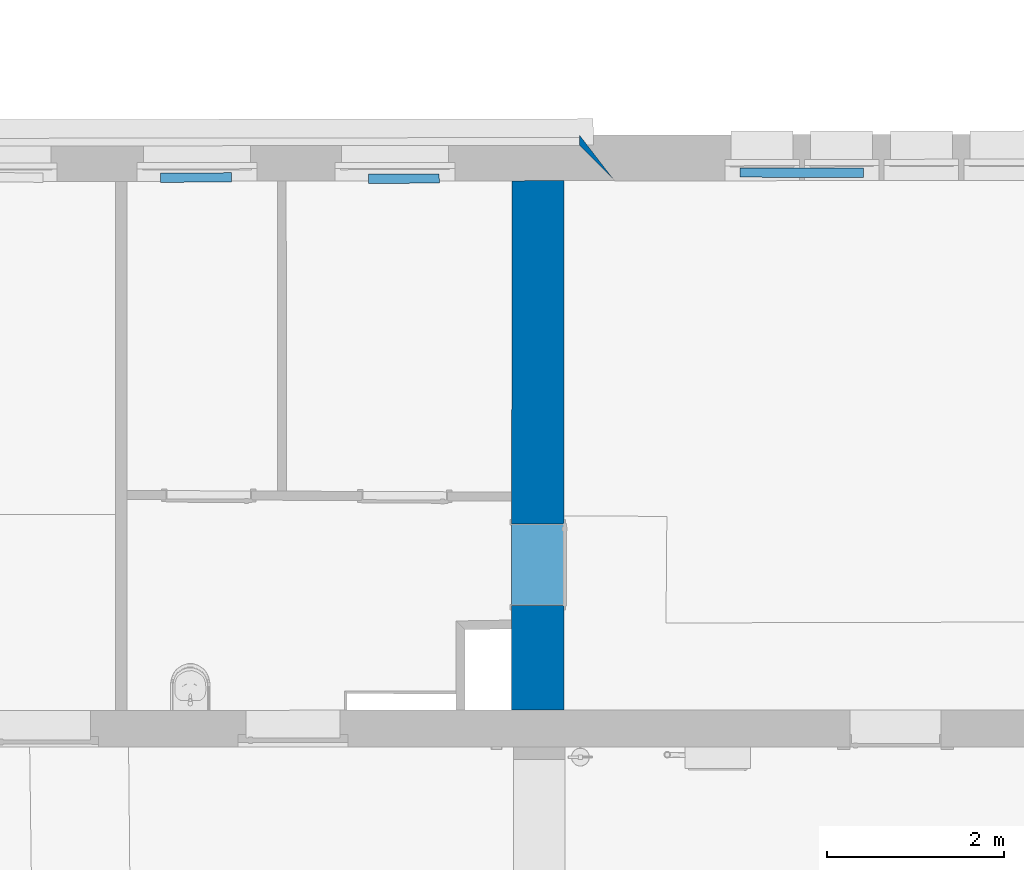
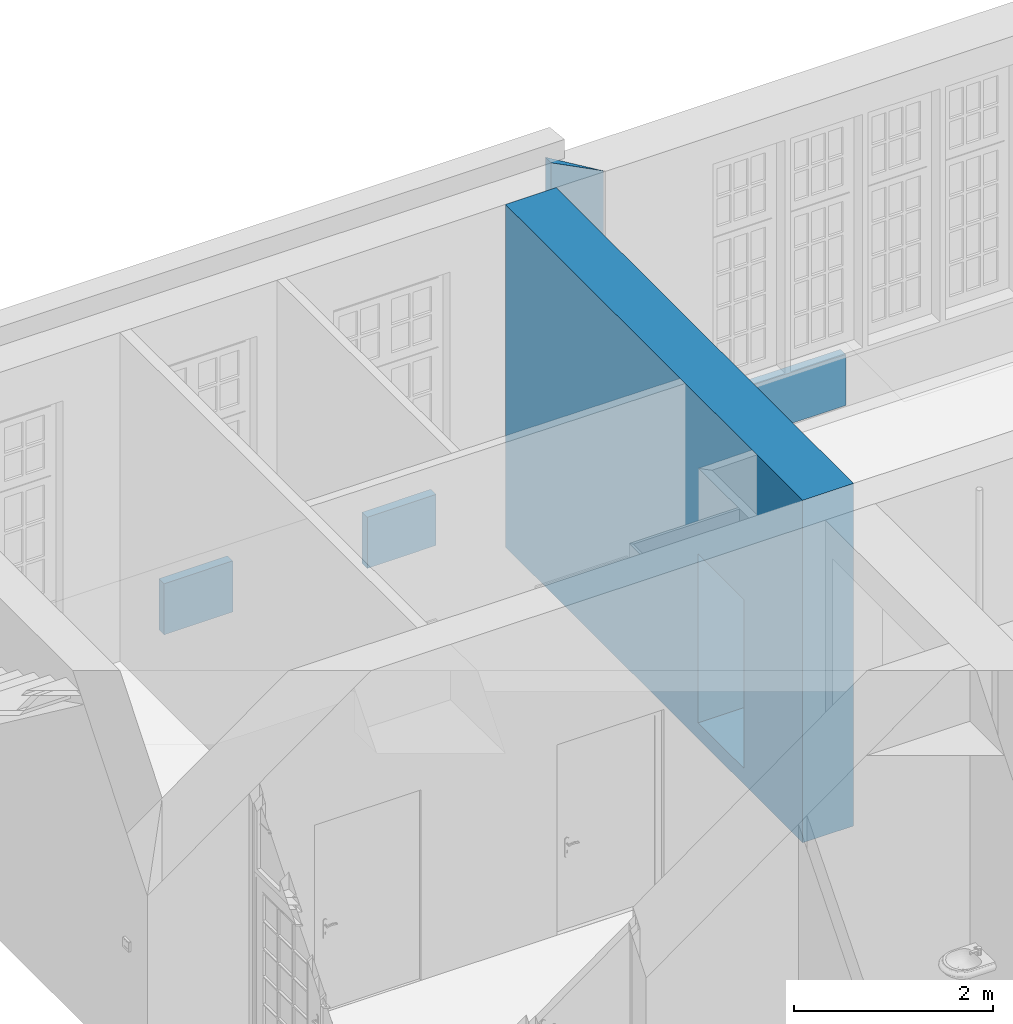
# One storey, part 33 of 90: 5 walls, 1 opening.
"""IFC2X3 building model written with IfcOpenShell, lengths in metres."""

import ifcopenshell
import ifcopenshell.guid

model = None  # the IFC model being written
_history = None  # IfcOwnerHistory: only IFC2X3 demands one
_inside = {}  # id of a spatial element -> (the spatial element, [elements in it])
_under = {}  # id of a project, library or spatial element -> (it, [spatial elements below it])
_declared = {}  # id of a project -> (the project, [libraries it declares])
_typed = {}  # id of a type object -> (the type object, [elements of that type])
_made_of = {}  # id of a material, layer set ... -> (it, [elements and type objects made of it])


def new_model(schema):
    """Start an empty IFC model of exactly this schema.

    Asked for "IFC4X3", IfcOpenShell would pick the latest addendum, in which some entities
    have other attributes; the version numbers below select the first issue.
    IFC2X3 requires an IfcOwnerHistory on every rooted entity: one is made here for all.
    """
    global model, _history
    if schema == "IFC4X3":
        model = ifcopenshell.file(schema_version=(4, 3, 0, 0))
    else:
        model = ifcopenshell.file(schema=schema)
    _inside.clear()
    _under.clear()
    _declared.clear()
    _typed.clear()
    _made_of.clear()
    _history = None
    if model.schema == "IFC2X3":
        org = make("IfcOrganization", Name="unknown")
        user = make(
            "IfcPersonAndOrganization",
            ThePerson=make("IfcPerson", FamilyName="unknown"),
            TheOrganization=org,
        )
        app = make(
            "IfcApplication",
            ApplicationDeveloper=org,
            Version="unknown",
            ApplicationFullName="unknown",
            ApplicationIdentifier="unknown",
        )
        _history = make(
            "IfcOwnerHistory",
            OwningUser=user,
            OwningApplication=app,
            ChangeAction="ADDED",
            CreationDate=0,
        )
    return model


def make(cls, **values):
    """One entity of the class cls with the attributes given. An attribute that is None is left unset."""
    return model.create_entity(
        cls, **{name: value for name, value in values.items() if value is not None}
    )


def entity(cls, *values):
    """Any entity or typed value of the class cls, its attributes in the order of the schema. None: left unset."""
    e = model.create_entity(cls)
    for i, value in enumerate(values):
        if value is not None:
            e[i] = value
    return e


def rooted(cls, **values):
    """An entity with a GlobalId (a new one), such as an element, a storey or a relation."""
    return make(cls, GlobalId=ifcopenshell.guid.new(), OwnerHistory=_history, **values)


def si_unit(unit_type, name, prefix=None):
    """IfcSIUnit, for example si_unit("LENGTHUNIT", "METRE", prefix="MILLI")."""
    return make("IfcSIUnit", UnitType=unit_type, Prefix=prefix, Name=name)


def converted_unit(unit_type, name, factor, base, dimensions=None, offset=None):
    """IfcConversionBasedUnit, such as the inch: factor (a typed value) times the base unit."""
    return make(
        "IfcConversionBasedUnit"
        if offset is None
        else "IfcConversionBasedUnitWithOffset",
        ConversionOffset=offset,
        Dimensions=None
        if dimensions is None
        else entity("IfcDimensionalExponents", *dimensions),
        UnitType=unit_type,
        Name=name,
        ConversionFactor=make(
            "IfcMeasureWithUnit", ValueComponent=factor, UnitComponent=base
        ),
    )


def derived_unit(unit_type, elements):
    """IfcDerivedUnit: a product of units, each with its exponent."""
    return make(
        "IfcDerivedUnit",
        Elements=[
            make("IfcDerivedUnitElement", Unit=unit, Exponent=power)
            for unit, power in elements
        ],
        UnitType=unit_type,
    )


def money_unit(currency):
    """IfcMonetaryUnit."""
    return make("IfcMonetaryUnit", Currency=currency)


def assignment(units):
    """IfcUnitAssignment: the units of a project."""
    return None if units is None else make("IfcUnitAssignment", Units=units)


def point(xyz):
    """IfcCartesianPoint."""
    return None if xyz is None else make("IfcCartesianPoint", Coordinates=xyz)


def direction(xyz):
    """IfcDirection."""
    return None if xyz is None else make("IfcDirection", DirectionRatios=xyz)


def frame(location, z_axis=None, x_axis=None):
    """IfcAxis2Placement3D, a coordinate frame: its origin and axes. An axis left out is left unset."""
    return make(
        "IfcAxis2Placement3D",
        Location=point(location),
        Axis=direction(z_axis),
        RefDirection=direction(x_axis),
    )


def frame_2d(location, x_axis=None):
    """IfcAxis2Placement2D, a coordinate frame in the plane: its origin and x axis."""
    return make(
        "IfcAxis2Placement2D", Location=point(location), RefDirection=direction(x_axis)
    )


def origin_with_axes():
    """The frame at (0, 0, 0) with the z axis (0, 0, 1) and the x axis (1, 0, 0) written out."""
    return frame((0.0, 0.0, 0.0), z_axis=(0.0, 0.0, 1.0), x_axis=(1.0, 0.0, 0.0))


def origin_2d_with_axis():
    """The frame at (0, 0) in the plane with the x axis (1, 0) written out."""
    return frame_2d((0.0, 0.0), x_axis=(1.0, 0.0))


def place(relative_to, where):
    """IfcLocalPlacement: puts the frame where relative to a parent placement (None: the world)."""
    return make(
        "IfcLocalPlacement", PlacementRelTo=relative_to, RelativePlacement=where
    )


def context(
    kind, dimensions, precision=None, world=None, true_north=None, identifier=None
):
    """IfcGeometricRepresentationContext, for example the 3D "Model" context."""
    return make(
        "IfcGeometricRepresentationContext",
        ContextIdentifier=identifier,
        ContextType=kind,
        CoordinateSpaceDimension=dimensions,
        Precision=precision,
        WorldCoordinateSystem=world,
        TrueNorth=true_north,
    )


def subcontext(parent, identifier, kind, view, scale=None):
    """IfcGeometricRepresentationSubContext, for example "Body" below "Model"."""
    return make(
        "IfcGeometricRepresentationSubContext",
        ContextIdentifier=identifier,
        ContextType=kind,
        ParentContext=parent,
        TargetScale=scale,
        TargetView=view,
    )


def project(units=None, contexts=None):
    """IfcProject with its units and contexts."""
    return rooted(
        "IfcProject",
        Name="project",
        RepresentationContexts=contexts,
        UnitsInContext=assignment(units),
    )


def spatial(cls, under=None, at=None, **own):
    """A site, building, storey or space (cls), placed at a placement, below another one or the project."""
    s = rooted(cls, ObjectPlacement=at, **own)
    if under is not None:
        _under.setdefault(under.id(), (under, []))[1].append(s)
    return s


def polyline(points):
    """IfcPolyline through the points."""
    return make("IfcPolyline", Points=[point(p) for p in points])


def profile(cls, at=None, kind="AREA", **sizes):
    """A parametric profile (cls). Its sizes go by their IFC names, for example OverallWidth=200.0."""
    return make(cls, ProfileType=kind, Position=at, **sizes)


def rectangle(**sizes):
    """IfcRectangleProfileDef."""
    return profile("IfcRectangleProfileDef", **sizes)


def outline(outer, holes=None, kind="AREA"):
    """IfcArbitraryClosedProfileDef: a profile drawn as a closed curve; with holes, ...WithVoids."""
    if holes is None:
        return make("IfcArbitraryClosedProfileDef", ProfileType=kind, OuterCurve=outer)
    return make(
        "IfcArbitraryProfileDefWithVoids",
        ProfileType=kind,
        OuterCurve=outer,
        InnerCurves=holes,
    )


def extrude(swept, where, along, depth):
    """IfcExtrudedAreaSolid: the profile swept, set in the frame where, extruded along a direction by depth."""
    return make(
        "IfcExtrudedAreaSolid",
        SweptArea=swept,
        Position=where,
        ExtrudedDirection=direction(along),
        Depth=depth,
    )


def shape(context_of_items, identifier, shape_type, items):
    """IfcShapeRepresentation: the items that make up one representation, for example the "Body"."""
    return make(
        "IfcShapeRepresentation",
        ContextOfItems=context_of_items,
        RepresentationIdentifier=identifier,
        RepresentationType=shape_type,
        Items=items,
    )


def material(Name=None, Category=None):
    """IfcMaterial."""
    return make("IfcMaterial", Name=Name, Category=Category)


def layer(
    of_material, thickness, ventilated=None, Name=None, Category=None, Priority=None
):
    """IfcMaterialLayer: one layer of a wall or slab, of a material (None: an air gap)."""
    return make(
        "IfcMaterialLayer",
        Material=of_material,
        LayerThickness=thickness,
        IsVentilated=ventilated,
        Name=Name,
        Category=Category,
        Priority=Priority,
    )


def layer_set(layers, Name=None):
    """IfcMaterialLayerSet."""
    return make("IfcMaterialLayerSet", MaterialLayers=layers, LayerSetName=Name)


def layer_usage(for_layer_set, set_direction, sense, offset, extent=None):
    """IfcMaterialLayerSetUsage: how a layer set lies in its element."""
    return make(
        "IfcMaterialLayerSetUsage",
        ForLayerSet=for_layer_set,
        LayerSetDirection=set_direction,
        DirectionSense=sense,
        OffsetFromReferenceLine=offset,
        ReferenceExtent=extent,
    )


def made_of(thing, what):
    """Note that an element or type object is made of a material, layer set ...; save() writes the relation."""
    if what is not None:
        _made_of.setdefault(what.id(), (what, []))[1].append(thing)
    return thing


def type_object(cls, material=None, **own):
    """A type object (cls), such as IfcWallType, which elements share."""
    return made_of(rooted(cls, **own), material)


def element(
    cls,
    number,
    at=None,
    inside=None,
    cuts=None,
    type_object=None,
    material=None,
    context=None,
    identifier="Body",
    shape_type=None,
    held_by="IfcProductDefinitionShape",
    body=None,
    shapes=None,
    **own,
):
    """One element of the class cls, such as IfcWall. Its Tag is "e" and its number.

    at: its placement. inside: the storey or other place that contains it. cuts: it is an
    opening in that element (IfcRelVoidsElement). A single representation is given by context,
    identifier, shape_type and body (its items); several are given by shapes. held_by: the class
    of the entity that holds the representations. save() writes the other relations.
    """
    e = rooted(cls, Tag="e%d" % number, ObjectPlacement=at, **own)
    if body is not None:
        shapes = [shape(context, identifier, shape_type, body)]
    if shapes is not None:
        e.Representation = make(held_by, Representations=shapes)
    if inside is not None:
        _inside.setdefault(inside.id(), (inside, []))[1].append(e)
    if cuts is not None:
        rooted(
            "IfcRelVoidsElement", RelatingBuildingElement=cuts, RelatedOpeningElement=e
        )
    if type_object is not None:
        _typed.setdefault(type_object.id(), (type_object, []))[1].append(e)
    return made_of(e, material)


def aggregate(whole, parts):
    """IfcRelAggregates: a whole, such as a stair, and the parts it consists of."""
    return rooted("IfcRelAggregates", RelatingObject=whole, RelatedObjects=parts)


def save(model, path):
    """Write the relations noted so far, then the file.

    IfcRelAggregates (storeys below a building ...), IfcRelContainedInSpatialStructure (elements
    in a storey), IfcRelDefinesByType, IfcRelAssociatesMaterial and IfcRelDeclares: one each for
    every whole, place, type object, material and project.
    """
    for whole, parts in _under.values():
        aggregate(whole, parts)
    for where, things in _inside.values():
        rooted(
            "IfcRelContainedInSpatialStructure",
            RelatedElements=things,
            RelatingStructure=where,
        )
    for kind, things in _typed.values():
        rooted("IfcRelDefinesByType", RelatedObjects=things, RelatingType=kind)
    for what, things in _made_of.values():
        rooted("IfcRelAssociatesMaterial", RelatedObjects=things, RelatingMaterial=what)
    for by, libraries in _declared.values():
        rooted("IfcRelDeclares", RelatingContext=by, RelatedDefinitions=libraries)
    model.write(path)


model = new_model("IFC2X3")

# Units and contexts
model_context = context("Model", 3, precision=1e-05, world=origin_with_axes(), true_north=direction((0.0, 1.0)))
body_context = subcontext(model_context, "Body", "Model", "MODEL_VIEW")
ifc_project = project(units=[si_unit("LENGTHUNIT", "METRE"), si_unit("AREAUNIT", "SQUARE_METRE"), si_unit("VOLUMEUNIT", "CUBIC_METRE"), converted_unit("PLANEANGLEUNIT", "DEGREE", entity("IfcPlaneAngleMeasure", 0.0174532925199), si_unit("PLANEANGLEUNIT", "RADIAN"), dimensions=[0, 0, 0, 0, 0, 0, 0]), money_unit("EUR"), converted_unit("TIMEUNIT", "Year", entity("IfcTimeMeasure", 31556926.0), si_unit("TIMEUNIT", "SECOND"), dimensions=[0, 0, 1, 0, 0, 0, 0]), si_unit("MASSUNIT", "GRAM", prefix="KILO"), si_unit("THERMODYNAMICTEMPERATUREUNIT", "DEGREE_CELSIUS"), si_unit("LUMINOUSINTENSITYUNIT", "LUMEN"), si_unit("ENERGYUNIT", "JOULE", prefix="MEGA"), derived_unit("THERMALCONDUCTANCEUNIT", [(si_unit("POWERUNIT", "WATT"), 1), (si_unit("LENGTHUNIT", "METRE"), -1), (si_unit("THERMODYNAMICTEMPERATUREUNIT", "KELVIN"), -1)]), derived_unit("SPECIFICHEATCAPACITYUNIT", [(si_unit("ENERGYUNIT", "JOULE"), 1), (si_unit("MASSUNIT", "GRAM", prefix="KILO"), -1), (si_unit("THERMODYNAMICTEMPERATUREUNIT", "KELVIN"), -1)]), derived_unit("MASSDENSITYUNIT", [(si_unit("MASSUNIT", "GRAM", prefix="KILO"), 1), (si_unit("VOLUMEUNIT", "CUBIC_METRE"), -1)])], contexts=[model_context])

# Site, building, storey
site_placement = place(None, origin_with_axes())
site = spatial("IfcSite", under=ifc_project, at=site_placement, Name="Gelände", CompositionType="ELEMENT")
building_placement = place(site_placement, origin_with_axes())
building = spatial("IfcBuilding", under=site, at=building_placement, Name="Gebäude", CompositionType="ELEMENT")
storey_placement = place(building_placement, frame((0.0, 0.0, 3.7), z_axis=(0.0, 0.0, 1.0), x_axis=(1.0, 0.0, 0.0)))
storey = spatial("IfcBuildingStorey", under=building, at=storey_placement, Name="1.OBERGESCHOSS", CompositionType="ELEMENT", Elevation=3.7)

# Walls
ifc_material_1 = material(Name="05_ALLGEMEIN - TRAGENDE BAUTEILE")
ifc_layer_1 = layer(ifc_material_1, 0.4, ventilated="UNKNOWN")
ifc_layer_set_1 = layer_set([ifc_layer_1], Name="05_ALLGEMEIN - TRAGENDE BAUTEILE 0.4")
ifc_layer_usage_1 = layer_usage(ifc_layer_set_1, "AXIS2", "NEGATIVE", 0.4)
wall_type_1 = type_object("IfcWallType", Name="05_ALLGEMEIN - TRAGENDE BAUTEILE 400", PredefinedType="ELEMENTEDWALL")
wall_1_placement = place(storey_placement, frame((3.73053516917, 26.1880653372, -0.1), z_axis=(0.0, 0.0, 1.0), x_axis=(0.0, -1.0, 0.0)))
element("IfcWallStandardCase", 1, at=wall_1_placement, inside=storey, type_object=wall_type_1, material=ifc_layer_usage_1, Name="Wand-037", ObjectType="ELEMENTEDWALL", context=body_context, shape_type="SweptSolid", body=[
    extrude(outline(polyline([(0.499992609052, 0.385103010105), (0.0, 0.0), (0.115426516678, 0.0), (0.499992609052, 0.385103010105)])), origin_with_axes(), (0.0, 0.0, 1.0), 4.2),
])
ifc_material_2 = material(Name="01_ALLGEMEIN - BAUTEIL")
ifc_layer_2 = layer(ifc_material_2, 0.105, ventilated="UNKNOWN")
ifc_layer_set_2 = layer_set([ifc_layer_2], Name="01_ALLGEMEIN - BAUTEIL 0.105")
ifc_layer_usage_2 = layer_usage(ifc_layer_set_2, "AXIS2", "NEGATIVE", 0.105)
wall_type_2 = type_object("IfcWallType", Name="01_ALLGEMEIN - BAUTEIL 105", PredefinedType="ELEMENTEDWALL")
wall_2_placement = place(storey_placement, frame((-0.998379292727, 25.6535076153, 0.222143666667), z_axis=(0.0, 0.0, 1.0), x_axis=(0.999987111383, 0.00507711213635, 0.0)))
element("IfcWallStandardCase", 2, at=wall_2_placement, inside=storey, type_object=wall_type_2, material=ifc_layer_usage_2, Name="Wand-035", ObjectType="ELEMENTEDWALL", context=body_context, shape_type="SweptSolid", body=[
    extrude(outline(polyline([(0.0, 0.0), (0.798248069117, 0.0), (0.798248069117, 0.105), (0.0, 0.105), (0.0, 0.0)])), origin_with_axes(), (0.0, 0.0, 1.0), 0.626381),
])
ifc_layer_usage_3 = layer_usage(ifc_layer_set_2, "AXIS2", "NEGATIVE", 0.105)
wall_3_placement = place(storey_placement, frame((5.54439689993, 25.7116820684, 0.222143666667), z_axis=(0.0, 0.0, 1.0), x_axis=(0.999998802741, -0.00154742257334, 0.0)))
element("IfcWallStandardCase", 3, at=wall_3_placement, inside=storey, type_object=wall_type_2, material=ifc_layer_usage_3, Name="Wand-035", ObjectType="ELEMENTEDWALL", context=body_context, shape_type="SweptSolid", body=[
    extrude(outline(polyline([(0.0, 0.0), (1.39367292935, 0.0), (1.39367292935, 0.105), (0.0, 0.105), (0.0, 0.0)])), origin_with_axes(), (0.0, 0.0, 1.0), 0.626381),
])
ifc_layer_usage_4 = layer_usage(ifc_layer_set_2, "AXIS2", "NEGATIVE", 0.105)
wall_4_placement = place(storey_placement, frame((1.3501322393, 25.6412045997, 0.222143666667), z_axis=(0.0, 0.0, 1.0), x_axis=(0.999987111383, 0.00507711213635, 0.0)))
element("IfcWallStandardCase", 4, at=wall_4_placement, inside=storey, type_object=wall_type_2, material=ifc_layer_usage_4, Name="Wand-035", ObjectType="ELEMENTEDWALL", context=body_context, shape_type="SweptSolid", body=[
    extrude(outline(polyline([(0.0, 0.0), (0.798248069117, 0.0), (0.798248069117, 0.105), (0.0, 0.105), (0.0, 0.0)])), origin_with_axes(), (0.0, 0.0, 1.0), 0.626381),
])

# Wall, opening
ifc_layer_3 = layer(ifc_material_1, 0.59, ventilated="UNKNOWN")
ifc_layer_set_3 = layer_set([ifc_layer_3], Name="05_ALLGEMEIN - TRAGENDE BAUTEILE 0.59")
ifc_layer_usage_5 = layer_usage(ifc_layer_set_3, "AXIS2", "NEGATIVE", 0.59)
wall_type_3 = type_object("IfcWallType", Name="05_ALLGEMEIN - TRAGENDE BAUTEILE 590", PredefinedType="ELEMENTEDWALL")
wall_5_placement = place(storey_placement, frame((3.55440336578, 19.2785841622, -0.1), z_axis=(0.0, 0.0, 1.0), x_axis=(0.0006385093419, 0.999999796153, 0.0)))
wall_5 = element("IfcWallStandardCase", 5, at=wall_5_placement, inside=storey, type_object=wall_type_3, material=ifc_layer_usage_5, Name="Wand-038", ObjectType="ELEMENTEDWALL", context=body_context, shape_type="SweptSolid", body=[
    extrude(outline(polyline([(0.414615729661, 0.0), (6.3938155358, 0.0), (6.39261565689, 0.59), (0.414067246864, 0.59), (0.414615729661, 0.0)])), origin_with_axes(), (0.0, 0.0, 1.0), 4.2),
])
opening_placement = place(wall_5_placement, frame((2.0565134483, 0.0, 0.195992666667), z_axis=(0.0, 0.0, 1.0), x_axis=(1.0, 0.0, 0.0)))
element("IfcOpeningElement", 6, at=opening_placement, cuts=wall_5, Name="Tür-022", context=body_context, shape_type="SweptSolid", body=[
    extrude(rectangle(XDim=0.921504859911, YDim=2.07095833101, at=origin_2d_with_axis()), frame((0.0, -0.59, 1.0354791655), z_axis=(0.0, 1.0, 0.0), x_axis=(-1.0, 0.0, 0.0)), (0.0, 0.0, 1.0), 1.77),
])

save(model, "model.ifc")
